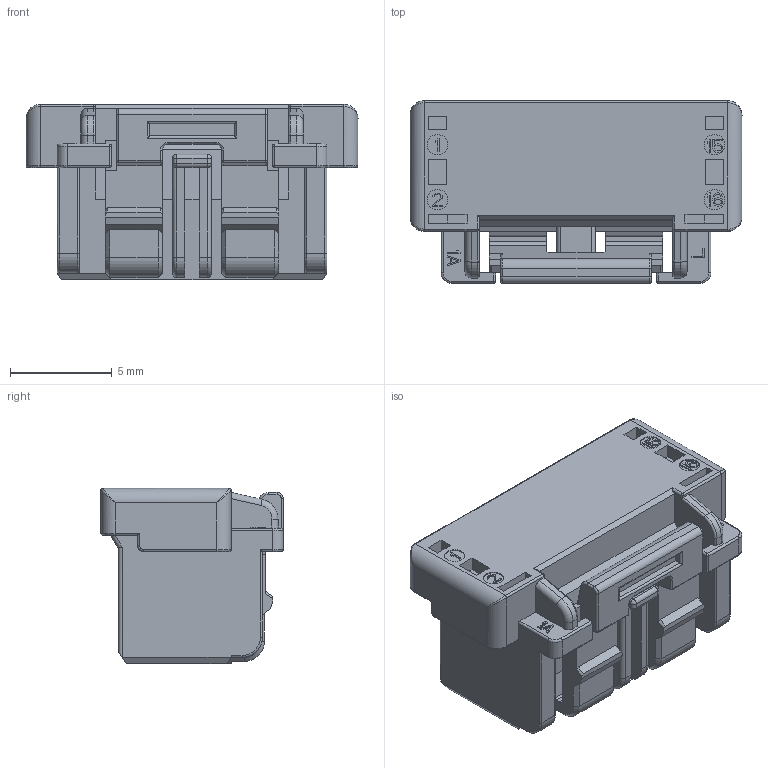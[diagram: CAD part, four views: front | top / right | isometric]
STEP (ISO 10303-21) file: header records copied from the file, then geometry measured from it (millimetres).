
FILE_DESCRIPTION (( 'STEP AP203' ), '1' );
FILE_NAME ('GT-A1515HM-216W01.STEP', '2024-09-25T10:36:19', ( '' ), ( '' ), 'SwSTEP 2.0', 'SolidWorks 2020', '' );
FILE_SCHEMA (( 'CONFIG_CONTROL_DESIGN' ));
Length unit declared in the file: millimetre
Products named in the file (1): GT-A1515HM-216W01
Bounding box: 16.3 x 8.95 x 8.6 mm (x, y, z)
Volume: 523.3 mm3; surface area: 1206.7 mm2
Topology: 1 solids, 1 shells, 931 faces, 2493 edges, 1592 vertices
Faces by surface type: plane 697, cylinder 115, bspline 75, torus 26, sphere 14, cone 4
Entity records: 32742 total; most frequent: CARTESIAN_POINT 9974, ORIENTED_EDGE 4962, DIRECTION 4215, EDGE_CURVE 2481, VECTOR 2089, LINE 2089, VERTEX_POINT 1592, AXIS2_PLACEMENT_3D 1063
